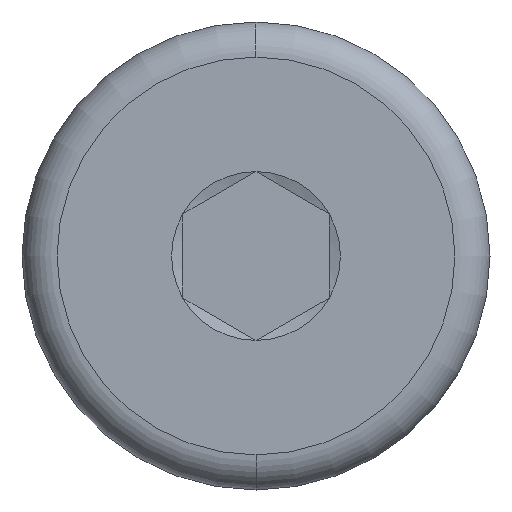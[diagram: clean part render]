
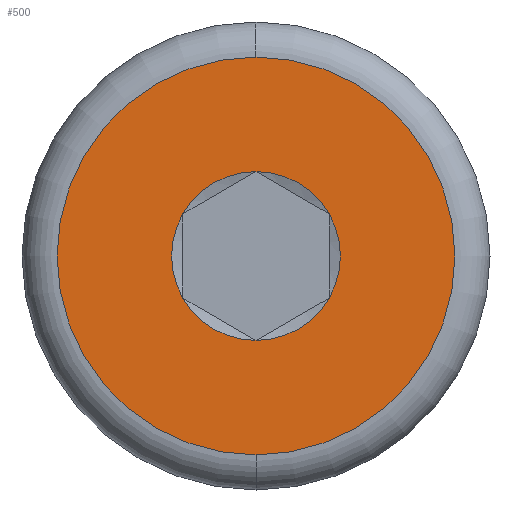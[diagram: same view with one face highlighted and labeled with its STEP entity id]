
A CAD part, left-side view. The second image highlights one B-rep face of the part: STEP entity #500.
In plain terms, the highlighted planar face has unit normal (-1, 0, 0).
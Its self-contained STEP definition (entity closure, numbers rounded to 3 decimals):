
#18 = CIRCLE ( 'NONE', #457, 1.443 ) ;
#21 = DIRECTION ( 'NONE',  ( 0., 0., -1. ) ) ;
#64 = CARTESIAN_POINT ( 'NONE',  ( 0., 0., 0. ) ) ;
#70 = VERTEX_POINT ( 'NONE', #547 ) ;
#75 = FACE_BOUND ( 'NONE', #389, .T. ) ;
#101 = ORIENTED_EDGE ( 'NONE', *, *, #640, .T. ) ;
#107 = EDGE_LOOP ( 'NONE', ( #322, #607 ) ) ;
#110 = EDGE_CURVE ( 'NONE', #70, #590, #219, .T. ) ;
#122 = VERTEX_POINT ( 'NONE', #183 ) ;
#123 = CARTESIAN_POINT ( 'NONE',  ( 0., 0., 0. ) ) ;
#144 = CARTESIAN_POINT ( 'NONE',  ( 0., 0., 0. ) ) ;
#158 = EDGE_CURVE ( 'NONE', #448, #122, #552, .T. ) ;
#168 = CARTESIAN_POINT ( 'NONE',  ( 0., 0., 3.4 ) ) ;
#173 = FACE_OUTER_BOUND ( 'NONE', #107, .T. ) ;
#177 = VERTEX_POINT ( 'NONE', #601 ) ;
#183 = CARTESIAN_POINT ( 'NONE',  ( 0., 0., 1.443 ) ) ;
#196 = EDGE_CURVE ( 'NONE', #122, #70, #274, .T. ) ;
#200 = AXIS2_PLACEMENT_3D ( 'NONE', #64, #475, #394 ) ;
#204 = CARTESIAN_POINT ( 'NONE',  ( 0., 0., 0. ) ) ;
#214 = DIRECTION ( 'NONE',  ( 0., 0., -1. ) ) ;
#219 = CIRCLE ( 'NONE', #285, 1.443 ) ;
#220 = ORIENTED_EDGE ( 'NONE', *, *, #110, .T. ) ;
#236 = CARTESIAN_POINT ( 'NONE',  ( 0., 0., 0. ) ) ;
#240 = CARTESIAN_POINT ( 'NONE',  ( 0., 0., 0. ) ) ;
#242 = AXIS2_PLACEMENT_3D ( 'NONE', #144, #408, #574 ) ;
#268 = CARTESIAN_POINT ( 'NONE',  ( 0., 0., 0. ) ) ;
#274 = CIRCLE ( 'NONE', #242, 1.443 ) ;
#277 = CARTESIAN_POINT ( 'NONE',  ( 0., 1.25, 0.722 ) ) ;
#278 = CIRCLE ( 'NONE', #330, 3.4 ) ;
#281 = ORIENTED_EDGE ( 'NONE', *, *, #493, .T. ) ;
#285 = AXIS2_PLACEMENT_3D ( 'NONE', #236, #497, #395 ) ;
#293 = CARTESIAN_POINT ( 'NONE',  ( 0., -1.25, -0.722 ) ) ;
#306 = CARTESIAN_POINT ( 'NONE',  ( 0., 0., -3.4 ) ) ;
#307 = VERTEX_POINT ( 'NONE', #306 ) ;
#321 = DIRECTION ( 'NONE',  ( 1., 0., 0. ) ) ;
#322 = ORIENTED_EDGE ( 'NONE', *, *, #406, .F. ) ;
#326 = DIRECTION ( 'NONE',  ( 1., 0., 0. ) ) ;
#330 = AXIS2_PLACEMENT_3D ( 'NONE', #268, #479, #388 ) ;
#331 = CARTESIAN_POINT ( 'NONE',  ( 0., 1.25, -0.722 ) ) ;
#346 = AXIS2_PLACEMENT_3D ( 'NONE', #472, #425, #21 ) ;
#354 = DIRECTION ( 'NONE',  ( 1., 0., 0. ) ) ;
#357 = DIRECTION ( 'NONE',  ( 0., 0., -1. ) ) ;
#368 = CIRCLE ( 'NONE', #410, 1.443 ) ;
#379 = CIRCLE ( 'NONE', #346, 3.4 ) ;
#383 = ORIENTED_EDGE ( 'NONE', *, *, #462, .T. ) ;
#388 = DIRECTION ( 'NONE',  ( 0., 0., -1. ) ) ;
#389 = EDGE_LOOP ( 'NONE', ( #534, #485, #220, #281, #383, #101 ) ) ;
#390 = CIRCLE ( 'NONE', #589, 1.443 ) ;
#394 = DIRECTION ( 'NONE',  ( 0., 0., 1. ) ) ;
#395 = DIRECTION ( 'NONE',  ( 0., 0., -1. ) ) ;
#398 = AXIS2_PLACEMENT_3D ( 'NONE', #240, #354, #610 ) ;
#406 = EDGE_CURVE ( 'NONE', #307, #474, #379, .T. ) ;
#408 = DIRECTION ( 'NONE',  ( 1., 0., 0. ) ) ;
#410 = AXIS2_PLACEMENT_3D ( 'NONE', #483, #321, #214 ) ;
#416 = DIRECTION ( 'NONE',  ( 1., 0., 0. ) ) ;
#425 = DIRECTION ( 'NONE',  ( 1., 0., 0. ) ) ;
#445 = EDGE_CURVE ( 'NONE', #474, #307, #278, .T. ) ;
#448 = VERTEX_POINT ( 'NONE', #277 ) ;
#457 = AXIS2_PLACEMENT_3D ( 'NONE', #204, #416, #357 ) ;
#462 = EDGE_CURVE ( 'NONE', #177, #573, #368, .T. ) ;
#472 = CARTESIAN_POINT ( 'NONE',  ( 0., 0., 0. ) ) ;
#474 = VERTEX_POINT ( 'NONE', #168 ) ;
#475 = DIRECTION ( 'NONE',  ( -1., 0., 0. ) ) ;
#479 = DIRECTION ( 'NONE',  ( 1., 0., 0. ) ) ;
#483 = CARTESIAN_POINT ( 'NONE',  ( 0., 0., 0. ) ) ;
#485 = ORIENTED_EDGE ( 'NONE', *, *, #196, .T. ) ;
#486 = PLANE ( 'NONE',  #200 ) ;
#493 = EDGE_CURVE ( 'NONE', #590, #177, #390, .T. ) ;
#497 = DIRECTION ( 'NONE',  ( 1., 0., 0. ) ) ;
#500 = ADVANCED_FACE ( 'NONE', ( #75, #173 ), #486, .T. ) ;
#534 = ORIENTED_EDGE ( 'NONE', *, *, #158, .T. ) ;
#547 = CARTESIAN_POINT ( 'NONE',  ( 0., -1.25, 0.722 ) ) ;
#552 = CIRCLE ( 'NONE', #398, 1.443 ) ;
#573 = VERTEX_POINT ( 'NONE', #331 ) ;
#574 = DIRECTION ( 'NONE',  ( 0., 0., -1. ) ) ;
#581 = DIRECTION ( 'NONE',  ( 0., 0., -1. ) ) ;
#589 = AXIS2_PLACEMENT_3D ( 'NONE', #123, #326, #581 ) ;
#590 = VERTEX_POINT ( 'NONE', #293 ) ;
#601 = CARTESIAN_POINT ( 'NONE',  ( 0., 0., -1.443 ) ) ;
#607 = ORIENTED_EDGE ( 'NONE', *, *, #445, .F. ) ;
#610 = DIRECTION ( 'NONE',  ( 0., 0., -1. ) ) ;
#640 = EDGE_CURVE ( 'NONE', #573, #448, #18, .T. ) ;
